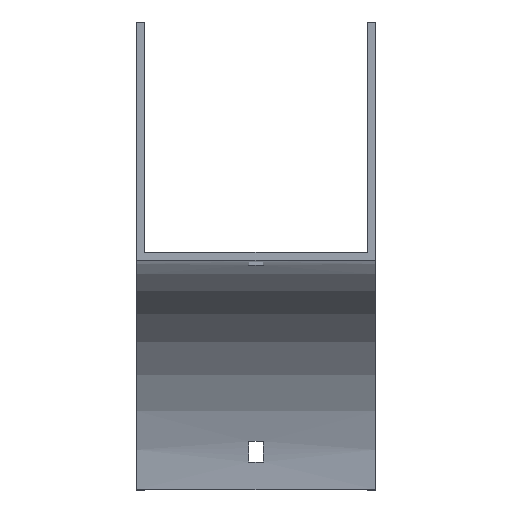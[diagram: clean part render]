
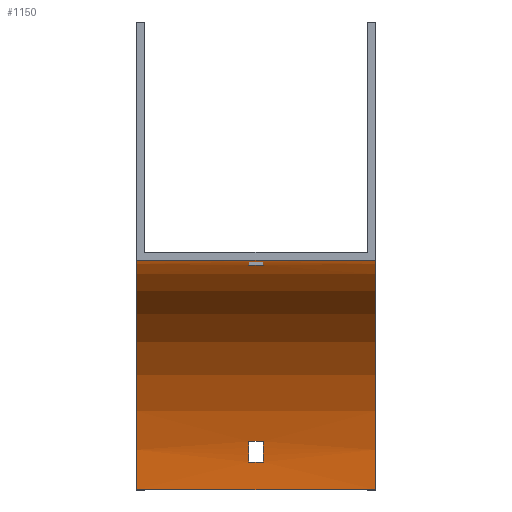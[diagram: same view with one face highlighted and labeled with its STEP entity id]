
A CAD part, top view. The second image highlights one B-rep face of the part: STEP entity #1150.
In plain terms, the highlighted cylindrical face has radius 100 mm (diameter 200 mm), a partial arc.
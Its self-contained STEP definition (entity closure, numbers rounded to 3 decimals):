
#90 = AXIS2_PLACEMENT_3D ( 'NONE', #647, #163, #132 ) ;
#103 = ORIENTED_EDGE ( 'NONE', *, *, #1524, .F. ) ;
#106 = CYLINDRICAL_SURFACE ( 'NONE', #605, 100. ) ;
#108 = DIRECTION ( 'NONE',  ( 0., 0., 1. ) ) ;
#114 = CARTESIAN_POINT ( 'NONE',  ( -3.25, -100., 0. ) ) ;
#132 = DIRECTION ( 'NONE',  ( 0., 1., 0. ) ) ;
#135 = DIRECTION ( 'NONE',  ( 1., 0., 0. ) ) ;
#138 = CARTESIAN_POINT ( 'NONE',  ( 3.25, -100., 0. ) ) ;
#139 = AXIS2_PLACEMENT_3D ( 'NONE', #138, #279, #799 ) ;
#160 = CARTESIAN_POINT ( 'NONE',  ( 3.25, -79., -97.77 ) ) ;
#163 = DIRECTION ( 'NONE',  ( -1., 0., 0. ) ) ;
#181 = VERTEX_POINT ( 'NONE', #265 ) ;
#190 = DIRECTION ( 'NONE',  ( -1., 0., 0. ) ) ;
#200 = CARTESIAN_POINT ( 'NONE',  ( -3.25, -79., -97.77 ) ) ;
#210 = DIRECTION ( 'NONE',  ( 1., 0., 0. ) ) ;
#250 = EDGE_LOOP ( 'NONE', ( #960, #806, #1182, #1108 ) ) ;
#265 = CARTESIAN_POINT ( 'NONE',  ( 3.25, -88., -99.277 ) ) ;
#272 = VECTOR ( 'NONE', #210, 1000. ) ;
#279 = DIRECTION ( 'NONE',  ( -1., 0., 0. ) ) ;
#303 = CIRCLE ( 'NONE', #139, 100. ) ;
#351 = VERTEX_POINT ( 'NONE', #1109 ) ;
#356 = FACE_BOUND ( 'NONE', #1650, .T. ) ;
#405 = DIRECTION ( 'NONE',  ( -1., 0., 0. ) ) ;
#420 = VERTEX_POINT ( 'NONE', #634 ) ;
#424 = CARTESIAN_POINT ( 'NONE',  ( 3.25, -100., 0. ) ) ;
#426 = ORIENTED_EDGE ( 'NONE', *, *, #477, .T. ) ;
#436 = DIRECTION ( 'NONE',  ( -1., 0., 0. ) ) ;
#448 = EDGE_CURVE ( 'NONE', #1548, #1245, #559, .T. ) ;
#461 = DIRECTION ( 'NONE',  ( 1., 0., 0. ) ) ;
#477 = EDGE_CURVE ( 'NONE', #1355, #1548, #1685, .T. ) ;
#488 = DIRECTION ( 'NONE',  ( 1., 0., 0. ) ) ;
#514 = VECTOR ( 'NONE', #190, 1000. ) ;
#516 = CIRCLE ( 'NONE', #90, 100. ) ;
#543 = EDGE_LOOP ( 'NONE', ( #1288, #1058, #103, #426 ) ) ;
#551 = CARTESIAN_POINT ( 'NONE',  ( 52., -79., -97.77 ) ) ;
#556 = EDGE_CURVE ( 'NONE', #1545, #1245, #970, .T. ) ;
#559 = CIRCLE ( 'NONE', #893, 100. ) ;
#565 = DIRECTION ( 'NONE',  ( -1., 0., 0. ) ) ;
#605 = AXIS2_PLACEMENT_3D ( 'NONE', #987, #1009, #108 ) ;
#623 = VECTOR ( 'NONE', #405, 1000. ) ;
#634 = CARTESIAN_POINT ( 'NONE',  ( -3.25, -88., -99.277 ) ) ;
#647 = CARTESIAN_POINT ( 'NONE',  ( -3.25, -100., 0. ) ) ;
#652 = VERTEX_POINT ( 'NONE', #1571 ) ;
#663 = CARTESIAN_POINT ( 'NONE',  ( 52., 0., 0. ) ) ;
#679 = LINE ( 'NONE', #551, #514 ) ;
#729 = CARTESIAN_POINT ( 'NONE',  ( 52., -2.23, -21. ) ) ;
#753 = ORIENTED_EDGE ( 'NONE', *, *, #1544, .F. ) ;
#772 = EDGE_CURVE ( 'NONE', #652, #351, #845, .T. ) ;
#795 = AXIS2_PLACEMENT_3D ( 'NONE', #424, #461, #994 ) ;
#799 = DIRECTION ( 'NONE',  ( 0., 0., -1. ) ) ;
#806 = ORIENTED_EDGE ( 'NONE', *, *, #772, .T. ) ;
#807 = EDGE_CURVE ( 'NONE', #351, #1266, #1080, .T. ) ;
#845 = CIRCLE ( 'NONE', #1549, 100. ) ;
#893 = AXIS2_PLACEMENT_3D ( 'NONE', #1162, #1033, #1554 ) ;
#924 = ORIENTED_EDGE ( 'NONE', *, *, #939, .F. ) ;
#938 = VERTEX_POINT ( 'NONE', #160 ) ;
#939 = EDGE_CURVE ( 'NONE', #938, #1619, #679, .T. ) ;
#960 = ORIENTED_EDGE ( 'NONE', *, *, #1514, .T. ) ;
#970 = LINE ( 'NONE', #1064, #623 ) ;
#971 = LINE ( 'NONE', #729, #1102 ) ;
#978 = LINE ( 'NONE', #1628, #272 ) ;
#987 = CARTESIAN_POINT ( 'NONE',  ( 52., -100., 0. ) ) ;
#994 = DIRECTION ( 'NONE',  ( 0., -1., 0. ) ) ;
#995 = VECTOR ( 'NONE', #135, 1000. ) ;
#1009 = DIRECTION ( 'NONE',  ( -1., 0., 0. ) ) ;
#1015 = FACE_OUTER_BOUND ( 'NONE', #543, .T. ) ;
#1026 = DIRECTION ( 'NONE',  ( 0., 0., 1. ) ) ;
#1033 = DIRECTION ( 'NONE',  ( -1., 0., 0. ) ) ;
#1041 = CARTESIAN_POINT ( 'NONE',  ( 52., 0., 0. ) ) ;
#1058 = ORIENTED_EDGE ( 'NONE', *, *, #556, .F. ) ;
#1064 = CARTESIAN_POINT ( 'NONE',  ( 52., -100., -100. ) ) ;
#1080 = LINE ( 'NONE', #1609, #995 ) ;
#1083 = CARTESIAN_POINT ( 'NONE',  ( -52., 0., 0. ) ) ;
#1085 = VERTEX_POINT ( 'NONE', #1166 ) ;
#1088 = VECTOR ( 'NONE', #1191, 1000. ) ;
#1094 = CARTESIAN_POINT ( 'NONE',  ( 52., -100., 0. ) ) ;
#1098 = ORIENTED_EDGE ( 'NONE', *, *, #1493, .F. ) ;
#1102 = VECTOR ( 'NONE', #565, 1000. ) ;
#1108 = ORIENTED_EDGE ( 'NONE', *, *, #1422, .T. ) ;
#1109 = CARTESIAN_POINT ( 'NONE',  ( -3.25, -0.723, -12. ) ) ;
#1111 = CARTESIAN_POINT ( 'NONE',  ( 3.25, -0.723, -12. ) ) ;
#1150 = ADVANCED_FACE ( 'NONE', ( #1015, #1536, #356 ), #106, .F. ) ;
#1162 = CARTESIAN_POINT ( 'NONE',  ( -52., -100., 0. ) ) ;
#1166 = CARTESIAN_POINT ( 'NONE',  ( 3.25, -2.23, -21. ) ) ;
#1182 = ORIENTED_EDGE ( 'NONE', *, *, #807, .T. ) ;
#1191 = DIRECTION ( 'NONE',  ( -1., 0., 0. ) ) ;
#1241 = CARTESIAN_POINT ( 'NONE',  ( 52., -100., -100. ) ) ;
#1245 = VERTEX_POINT ( 'NONE', #1541 ) ;
#1266 = VERTEX_POINT ( 'NONE', #1111 ) ;
#1274 = ORIENTED_EDGE ( 'NONE', *, *, #1426, .F. ) ;
#1288 = ORIENTED_EDGE ( 'NONE', *, *, #448, .T. ) ;
#1315 = CIRCLE ( 'NONE', #1454, 100. ) ;
#1355 = VERTEX_POINT ( 'NONE', #1041 ) ;
#1373 = DIRECTION ( 'NONE',  ( 0., 0., 1. ) ) ;
#1422 = EDGE_CURVE ( 'NONE', #1266, #1085, #303, .T. ) ;
#1426 = EDGE_CURVE ( 'NONE', #1619, #420, #516, .T. ) ;
#1454 = AXIS2_PLACEMENT_3D ( 'NONE', #1094, #436, #1373 ) ;
#1493 = EDGE_CURVE ( 'NONE', #420, #181, #978, .T. ) ;
#1514 = EDGE_CURVE ( 'NONE', #1085, #652, #971, .T. ) ;
#1524 = EDGE_CURVE ( 'NONE', #1355, #1545, #1315, .T. ) ;
#1536 = FACE_BOUND ( 'NONE', #250, .T. ) ;
#1540 = CIRCLE ( 'NONE', #795, 100. ) ;
#1541 = CARTESIAN_POINT ( 'NONE',  ( -52., -100., -100. ) ) ;
#1544 = EDGE_CURVE ( 'NONE', #181, #938, #1540, .T. ) ;
#1545 = VERTEX_POINT ( 'NONE', #1241 ) ;
#1548 = VERTEX_POINT ( 'NONE', #1083 ) ;
#1549 = AXIS2_PLACEMENT_3D ( 'NONE', #114, #488, #1026 ) ;
#1554 = DIRECTION ( 'NONE',  ( 0., 0., 1. ) ) ;
#1571 = CARTESIAN_POINT ( 'NONE',  ( -3.25, -2.23, -21. ) ) ;
#1609 = CARTESIAN_POINT ( 'NONE',  ( 52., -0.723, -12. ) ) ;
#1619 = VERTEX_POINT ( 'NONE', #200 ) ;
#1628 = CARTESIAN_POINT ( 'NONE',  ( 52., -88., -99.277 ) ) ;
#1650 = EDGE_LOOP ( 'NONE', ( #1274, #924, #753, #1098 ) ) ;
#1685 = LINE ( 'NONE', #663, #1088 ) ;
